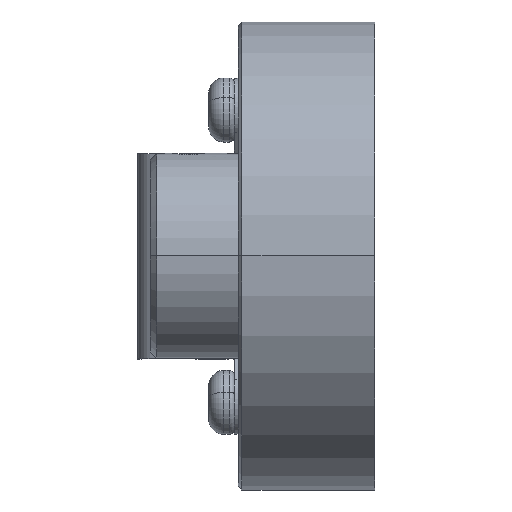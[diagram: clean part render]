
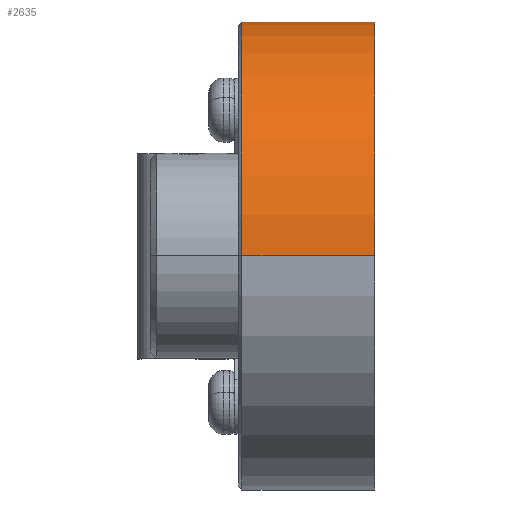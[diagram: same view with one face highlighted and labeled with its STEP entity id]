
A CAD part, top view. The second image highlights one B-rep face of the part: STEP entity #2635.
In plain terms, the highlighted cylindrical face has radius 18.25 mm (diameter 36.5 mm), a partial arc.
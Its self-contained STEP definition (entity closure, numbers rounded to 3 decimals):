
#933 = AXIS2_PLACEMENT_3D ( 'NONE', #12820, #6493, #4240 ) ;
#1087 = CARTESIAN_POINT ( 'NONE',  ( -1000., 0., 18.25 ) ) ;
#1392 = LINE ( 'NONE', #9753, #11936 ) ;
#1522 = CARTESIAN_POINT ( 'NONE',  ( -1.3, 0., -18.25 ) ) ;
#1575 = CIRCLE ( 'NONE', #933, 18.25 ) ;
#1691 = ORIENTED_EDGE ( 'NONE', *, *, #2418, .F. ) ;
#1765 = DIRECTION ( 'NONE',  ( 0., 0., 1. ) ) ;
#2418 = EDGE_CURVE ( 'NONE', #3317, #10053, #6608, .T. ) ;
#2533 = CARTESIAN_POINT ( 'NONE',  ( -1.3, 0., 0. ) ) ;
#2635 = ADVANCED_FACE ( 'NONE', ( #2998 ), #3472, .T. ) ;
#2703 = CARTESIAN_POINT ( 'NONE',  ( -11.65, 0., -18.25 ) ) ;
#2998 = FACE_OUTER_BOUND ( 'NONE', #3802, .T. ) ;
#3317 = VERTEX_POINT ( 'NONE', #8549 ) ;
#3326 = CARTESIAN_POINT ( 'NONE',  ( -11.65, 0., 18.25 ) ) ;
#3472 = CYLINDRICAL_SURFACE ( 'NONE', #8463, 18.25 ) ;
#3802 = EDGE_LOOP ( 'NONE', ( #7545, #12042, #11777, #1691 ) ) ;
#4240 = DIRECTION ( 'NONE',  ( 0., 0., 1. ) ) ;
#4803 = VERTEX_POINT ( 'NONE', #2703 ) ;
#4920 = DIRECTION ( 'NONE',  ( -1., 0., 0. ) ) ;
#4972 = VECTOR ( 'NONE', #7548, 1000. ) ;
#5830 = CIRCLE ( 'NONE', #6296, 18.25 ) ;
#6296 = AXIS2_PLACEMENT_3D ( 'NONE', #2533, #6782, #11030 ) ;
#6493 = DIRECTION ( 'NONE',  ( 1., 0., 0. ) ) ;
#6608 = LINE ( 'NONE', #1087, #4972 ) ;
#6782 = DIRECTION ( 'NONE',  ( -1., 0., 0. ) ) ;
#7545 = ORIENTED_EDGE ( 'NONE', *, *, #8741, .T. ) ;
#7548 = DIRECTION ( 'NONE',  ( -1., 0., 0. ) ) ;
#8463 = AXIS2_PLACEMENT_3D ( 'NONE', #11206, #4920, #1765 ) ;
#8549 = CARTESIAN_POINT ( 'NONE',  ( -1.3, 0., 18.25 ) ) ;
#8741 = EDGE_CURVE ( 'NONE', #3317, #9588, #5830, .T. ) ;
#8954 = EDGE_CURVE ( 'NONE', #4803, #10053, #1575, .T. ) ;
#9444 = DIRECTION ( 'NONE',  ( -1., 0., 0. ) ) ;
#9588 = VERTEX_POINT ( 'NONE', #1522 ) ;
#9753 = CARTESIAN_POINT ( 'NONE',  ( -1000., 0., -18.25 ) ) ;
#10053 = VERTEX_POINT ( 'NONE', #3326 ) ;
#11030 = DIRECTION ( 'NONE',  ( 0., 0., 1. ) ) ;
#11206 = CARTESIAN_POINT ( 'NONE',  ( -1000., 0., 0. ) ) ;
#11777 = ORIENTED_EDGE ( 'NONE', *, *, #8954, .T. ) ;
#11936 = VECTOR ( 'NONE', #9444, 1000. ) ;
#12042 = ORIENTED_EDGE ( 'NONE', *, *, #12812, .T. ) ;
#12812 = EDGE_CURVE ( 'NONE', #9588, #4803, #1392, .T. ) ;
#12820 = CARTESIAN_POINT ( 'NONE',  ( -11.65, 0., 0. ) ) ;
